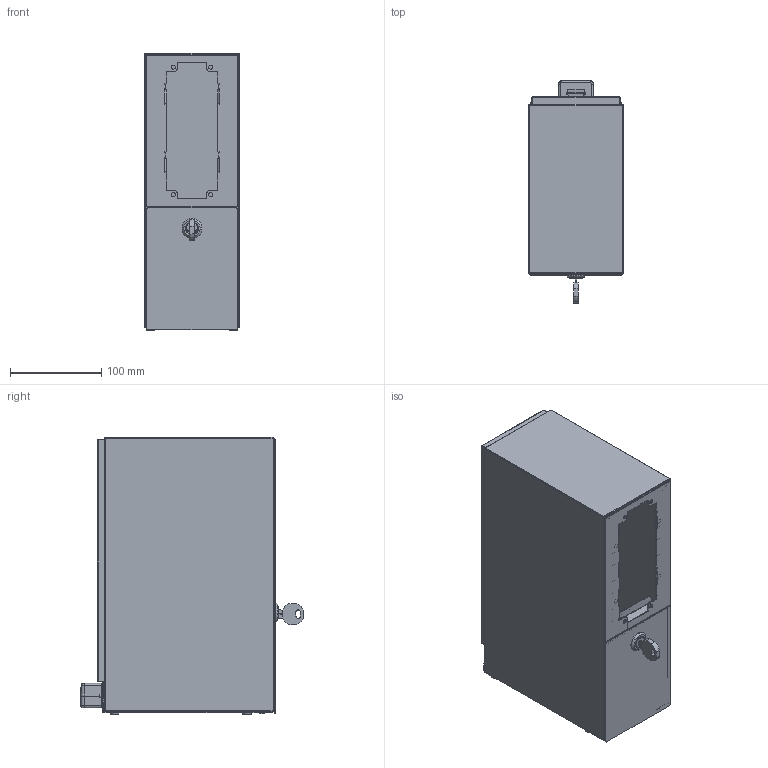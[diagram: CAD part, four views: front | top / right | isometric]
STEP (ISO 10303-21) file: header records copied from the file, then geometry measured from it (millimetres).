
FILE_DESCRIPTION (( 'STEP AP214' ), '1' );
FILE_NAME ('0390N009-00-00_Smart_Payment_Box(NRI).STEP', '2018-04-27T07:13:41', ( '' ), ( '' ), 'SwSTEP 2.0', 'SolidWorks 2015', '' );
FILE_SCHEMA (( 'AUTOMOTIVE_DESIGN' ));
Length unit declared in the file: millimetre
Products named in the file (14): pan head cross recess screw_iso(ISO 7045 - M4 x 6 - Z --- 6N); hex nut style 1 gradeab_iso(Hexagon Nut ISO - 4032 - M4 - W - N); Schloss-1; 0390N107-00-00_T黵e_Halteblech-1; 0390N106-00-00_T黵e_Deckblech-1; 0390N100-00-00_Gehaeuse_Mantelblech; Elastikpuffer_UCHI-1; 0390N108-00-01_Backcover_modified_GII-1; 0390N101-00-00_Frontblech-1; 0390N102-00-01_Bodenblech-1; DeviceFrogDummy; Cover_Änderungsanfrage 20150915; PAB001018_COVER-1; 0390N009-00-00_Smart_Payment_Box(NRI)
Assembly tree (20 placements, depth 3):
  0390N009-00-00_Smart_Payment_Box(NRI)
    DeviceFrogDummy
      PAB001018_COVER-1
      Cover_Änderungsanfrage 20150915
    0390N102-00-01_Bodenblech-1
    0390N101-00-00_Frontblech-1
    0390N108-00-01_Backcover_modified_GII-1
    Elastikpuffer_UCHI-1  x4
    0390N100-00-00_Gehaeuse_Mantelblech
    0390N106-00-00_T黵e_Deckblech-1
    0390N107-00-00_T黵e_Halteblech-1
    Schloss-1
    hex nut style 1 gradeab_iso(Hexagon Nut ISO - 4032 - M4 - W - N)  x4
    pan head cross recess screw_iso(ISO 7045 - M4 x 6 - Z --- 6N)  x2
Bounding box: 104 x 243.81 x 304 mm (x, y, z)
Volume: 263827 mm3; surface area: 513527.9 mm2
Topology: 21 solids, 21 shells, 2238 faces, 5919 edges, 3758 vertices
Faces by surface type: plane 1283, cylinder 673, bspline 180, cone 71, torus 29, sphere 2
Full cylindrical faces by diameter (mm): 3 x2, 3.2 x2, 3.3 x4, 4 x10, 4.5 x4, 5 x4, 6 x6, 7 x4, 8 x8, 10.1 x4, 12.5 x1, 17 x1, 19 x1
Entity records: 75312 total; most frequent: CARTESIAN_POINT 22647, ORIENTED_EDGE 11200, DIRECTION 9676, EDGE_CURVE 5600, VERTEX_POINT 3587, LINE 3572, VECTOR 3572, AXIS2_PLACEMENT_3D 3052
